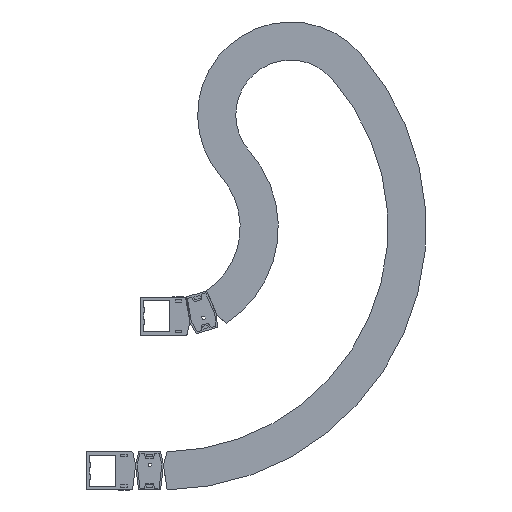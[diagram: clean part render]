
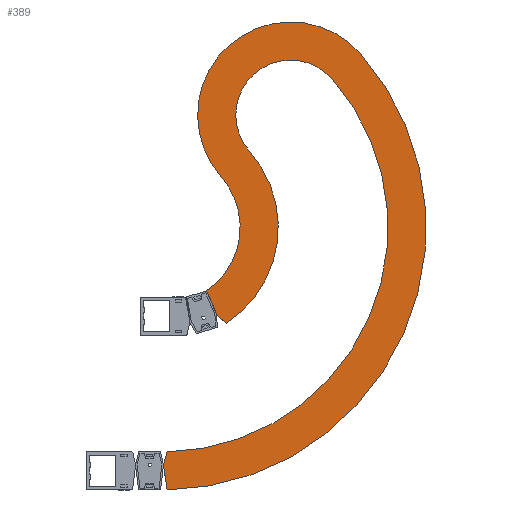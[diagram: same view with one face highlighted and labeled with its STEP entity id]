
A CAD part, front view. The second image highlights one B-rep face of the part: STEP entity #389.
In plain terms, the highlighted planar face has unit normal (0, -1, 0).
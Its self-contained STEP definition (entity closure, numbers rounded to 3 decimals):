
#389 = ADVANCED_FACE( '', ( #977 ), #978, .F. );
#977 = FACE_OUTER_BOUND( '', #1837, .T. );
#978 = PLANE( '', #1838 );
#1837 = EDGE_LOOP( '', ( #2744, #2745, #2746, #2747, #2748, #2749, #2750, #2751, #2752, #2753 ) );
#1838 = AXIS2_PLACEMENT_3D( '', #2754, #2755, #2756 );
#2744 = ORIENTED_EDGE( '', *, *, #5268, .F. );
#2745 = ORIENTED_EDGE( '', *, *, #5269, .F. );
#2746 = ORIENTED_EDGE( '', *, *, #5270, .F. );
#2747 = ORIENTED_EDGE( '', *, *, #5271, .T. );
#2748 = ORIENTED_EDGE( '', *, *, #5272, .F. );
#2749 = ORIENTED_EDGE( '', *, *, #5273, .F. );
#2750 = ORIENTED_EDGE( '', *, *, #5274, .F. );
#2751 = ORIENTED_EDGE( '', *, *, #5275, .T. );
#2752 = ORIENTED_EDGE( '', *, *, #5276, .T. );
#2753 = ORIENTED_EDGE( '', *, *, #5277, .F. );
#2754 = CARTESIAN_POINT( '', ( 0., -110., 0. ) );
#2755 = DIRECTION( '', ( 0., 1., 0. ) );
#2756 = DIRECTION( '', ( 0., 0., 1. ) );
#5268 = EDGE_CURVE( '', #6332, #6333, #6334, .T. );
#5269 = EDGE_CURVE( '', #6335, #6332, #6336, .T. );
#5270 = EDGE_CURVE( '', #6337, #6335, #6338, .T. );
#5271 = EDGE_CURVE( '', #6337, #6339, #6340, .T. );
#5272 = EDGE_CURVE( '', #6341, #6339, #6342, .T. );
#5273 = EDGE_CURVE( '', #6343, #6341, #6344, .T. );
#5274 = EDGE_CURVE( '', #6345, #6343, #6346, .T. );
#5275 = EDGE_CURVE( '', #6345, #6347, #6348, .T. );
#5276 = EDGE_CURVE( '', #6347, #6349, #6350, .T. );
#5277 = EDGE_CURVE( '', #6333, #6349, #6351, .T. );
#6332 = VERTEX_POINT( '', #7898 );
#6333 = VERTEX_POINT( '', #7899 );
#6334 = LINE( '', #7900, #7901 );
#6335 = VERTEX_POINT( '', #7902 );
#6336 = CIRCLE( '', #7903, 565. );
#6337 = VERTEX_POINT( '', #7904 );
#6338 = CIRCLE( '', #7905, 200. );
#6339 = VERTEX_POINT( '', #7906 );
#6340 = CIRCLE( '', #7907, 165. );
#6341 = VERTEX_POINT( '', #7908 );
#6342 = LINE( '', #7909, #7910 );
#6343 = VERTEX_POINT( '', #7911 );
#6344 = LINE( '', #7912, #7913 );
#6345 = VERTEX_POINT( '', #7914 );
#6346 = CIRCLE( '', #7915, 247. );
#6347 = VERTEX_POINT( '', #7916 );
#6348 = CIRCLE( '', #7917, 118. );
#6349 = VERTEX_POINT( '', #7918 );
#6350 = CIRCLE( '', #7919, 483. );
#6351 = LINE( '', #7920, #7921 );
#7898 = CARTESIAN_POINT( '', ( 7.873, -110., -564.945 ) );
#7899 = CARTESIAN_POINT( '', ( 0., -110., -511.2 ) );
#7900 = CARTESIAN_POINT( '', ( 7.873, -110., -564.945 ) );
#7901 = VECTOR( '', #9956, 1000. );
#7902 = CARTESIAN_POINT( '', ( 423.362, -110., 374.152 ) );
#7903 = AXIS2_PLACEMENT_3D( '', #9957, #9958, #9959 );
#7904 = CARTESIAN_POINT( '', ( 123.637, -110., 109.266 ) );
#7905 = AXIS2_PLACEMENT_3D( '', #9960, #9961, #9962 );
#7906 = CARTESIAN_POINT( '', ( 92.675, -110., -136.515 ) );
#7907 = AXIS2_PLACEMENT_3D( '', #9963, #9964, #9965 );
#7908 = CARTESIAN_POINT( '', ( 114.074, -110., -186.71 ) );
#7909 = CARTESIAN_POINT( '', ( 114.074, -110., -186.71 ) );
#7910 = VECTOR( '', #9966, 1000. );
#7911 = CARTESIAN_POINT( '', ( 135.342, -110., -206.619 ) );
#7912 = CARTESIAN_POINT( '', ( 135.342, -110., -206.619 ) );
#7913 = VECTOR( '', #9967, 1000. );
#7914 = CARTESIAN_POINT( '', ( 185.08, -110., 163.567 ) );
#7915 = AXIS2_PLACEMENT_3D( '', #9968, #9969, #9970 );
#7916 = CARTESIAN_POINT( '', ( 361.918, -110., 319.85 ) );
#7917 = AXIS2_PLACEMENT_3D( '', #9971, #9972, #9973 );
#7918 = CARTESIAN_POINT( '', ( 7.82, -110., -482.937 ) );
#7919 = AXIS2_PLACEMENT_3D( '', #9974, #9975, #9976 );
#7920 = CARTESIAN_POINT( '', ( 0., -110., -511.2 ) );
#7921 = VECTOR( '', #9977, 1000. );
#9956 = DIRECTION( '', ( -0.145, 0., 0.989 ) );
#9957 = CARTESIAN_POINT( '', ( 0., -110., 0. ) );
#9958 = DIRECTION( '', ( 0., 1., 0. ) );
#9959 = DIRECTION( '', ( 1., 0., 0. ) );
#9960 = CARTESIAN_POINT( '', ( 273.499, -110., 241.709 ) );
#9961 = DIRECTION( '', ( 0., 1., 0. ) );
#9962 = DIRECTION( '', ( 1., 0., 0. ) );
#9963 = CARTESIAN_POINT( '', ( 0., -110., 0. ) );
#9964 = DIRECTION( '', ( 0., 1., 0. ) );
#9965 = DIRECTION( '', ( 1., 0., 0. ) );
#9966 = DIRECTION( '', ( -0.392, 0., 0.92 ) );
#9967 = DIRECTION( '', ( -0.73, 0., 0.683 ) );
#9968 = CARTESIAN_POINT( '', ( 0., -110., 0. ) );
#9969 = DIRECTION( '', ( 0., 1., 0. ) );
#9970 = DIRECTION( '', ( 1., 0., 0. ) );
#9971 = CARTESIAN_POINT( '', ( 273.499, -110., 241.709 ) );
#9972 = DIRECTION( '', ( 0., 1., 0. ) );
#9973 = DIRECTION( '', ( 1., 0., 0. ) );
#9974 = CARTESIAN_POINT( '', ( 0., -110., 0. ) );
#9975 = DIRECTION( '', ( 0., 1., 0. ) );
#9976 = DIRECTION( '', ( 1., 0., 0. ) );
#9977 = DIRECTION( '', ( 0.267, 0., 0.964 ) );
